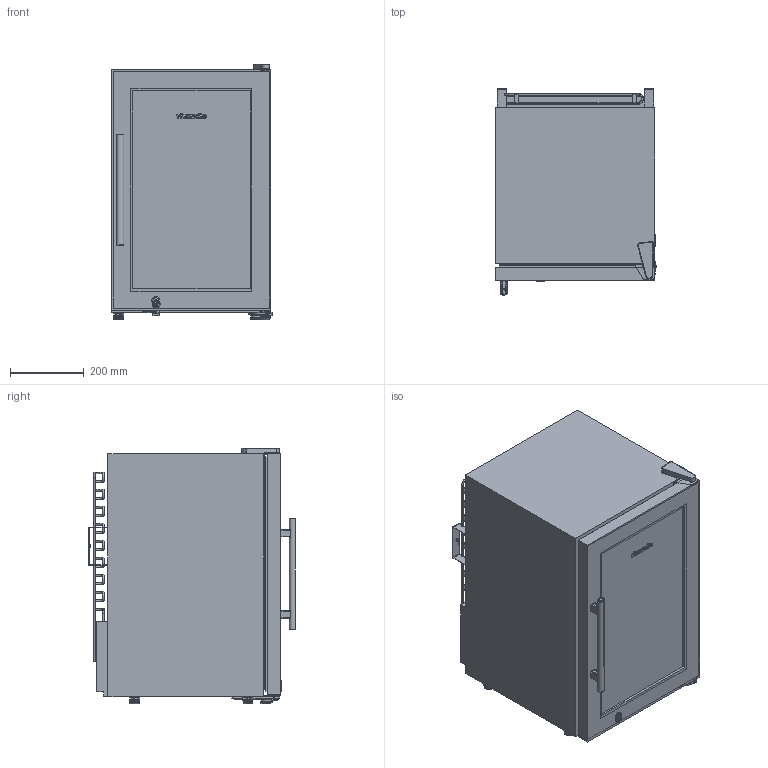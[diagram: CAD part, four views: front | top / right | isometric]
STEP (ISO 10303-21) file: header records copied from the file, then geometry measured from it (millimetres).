
FILE_DESCRIPTION(/* description */ (''),/* implementation_level */ '2;1');
FILE_NAME(/* name */ 'FS3-63-R.0_MOCKUP.step',/* time_stamp */ '2026-03-04T16:10:00+01:00',/* author */ (''),/* organization */ (''),/* preprocessor_version */ 'ST-DEVELOPER v20.1',/* originating_system */ 'Autodesk Translation Framework v14.24.0.0',/* authorisation */ '');
FILE_SCHEMA (('AUTOMOTIVE_DESIGN { 1 0 10303 214 3 1 1 }'));
Products named in the file (6): FS3-63-R.0_MOCKUP; Main Corpus; Interiour; Grate; FS2_Door Assembly; FS3_Door Assembly
Assembly tree (7 placements, depth 3):
  FS3-63-R.0_MOCKUP
    Main Corpus
    Interiour
      Grate  x3
    FS2_Door Assembly
    FS3_Door Assembly
Bounding box: 433.48 x 558.24 x 691.75 mm (x, y, z)
Volume: 66151676.3 mm3; surface area: 7533017.3 mm2
Topology: 115 solids, 127 shells, 4011 faces, 9485 edges, 5761 vertices
Faces by surface type: plane 2147, cylinder 1247, torus 245, bspline 227, sphere 93, cone 52
Full cylindrical faces by diameter (mm): 2.7 x2, 3 x102, 3.3 x4, 4 x44, 4.5 x2, 4.76 x36, 5 x24, 5.5 x1, 6 x1, 6.8 x1, 7.1 x1, 8 x7, 10 x7, 10.5 x1, 11 x1, 14 x1, 14.2 x2, 15 x3, 16 x2, 17.7 x1, 22 x1
Entity records: 121424 total; most frequent: CARTESIAN_POINT 34029, ORIENTED_EDGE 18006, DIRECTION 18003, EDGE_CURVE 9003, AXIS2_PLACEMENT_3D 6488, VERTEX_POINT 5497, LINE 5027, VECTOR 5027
